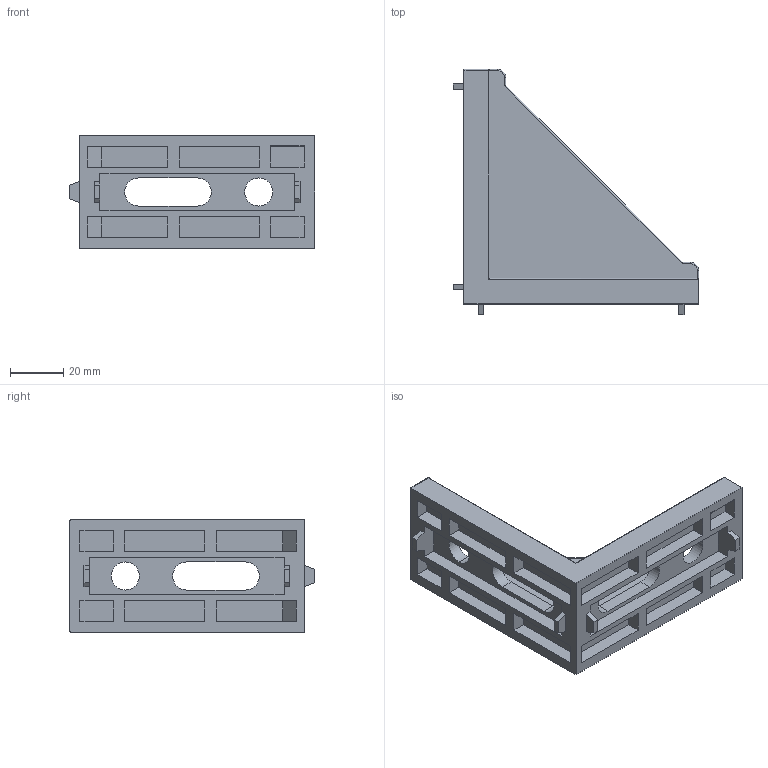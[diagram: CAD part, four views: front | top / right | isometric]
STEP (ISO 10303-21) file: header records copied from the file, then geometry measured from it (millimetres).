
FILE_DESCRIPTION (( 'STEP AP203' ), '1' );
FILE_NAME ('60－CE-RA4590-10.STEP', '2015-07-08T01:38:43', ( '' ), ( '' ), 'SwSTEP 2.0', 'SolidWorks 2013', '' );
FILE_SCHEMA (( 'CONFIG_CONTROL_DESIGN' ));
Length unit declared in the file: millimetre
Products named in the file (1): 60－CE-RA4590-10
Bounding box: 92 x 92 x 42 mm (x, y, z)
Volume: 58622.8 mm3; surface area: 28939.9 mm2
Topology: 1 solids, 1 shells, 131 faces, 330 edges, 214 vertices
Faces by surface type: plane 102, cylinder 25, torus 3, sphere 1
Entity records: 3946 total; most frequent: CARTESIAN_POINT 699, ORIENTED_EDGE 658, DIRECTION 623, EDGE_CURVE 329, VECTOR 283, LINE 283, VERTEX_POINT 214, AXIS2_PLACEMENT_3D 170
